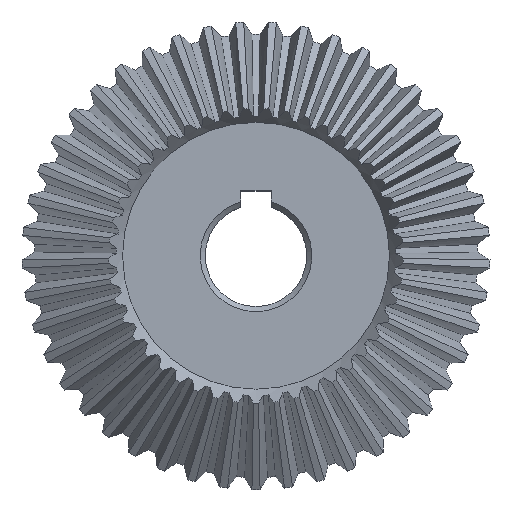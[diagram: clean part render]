
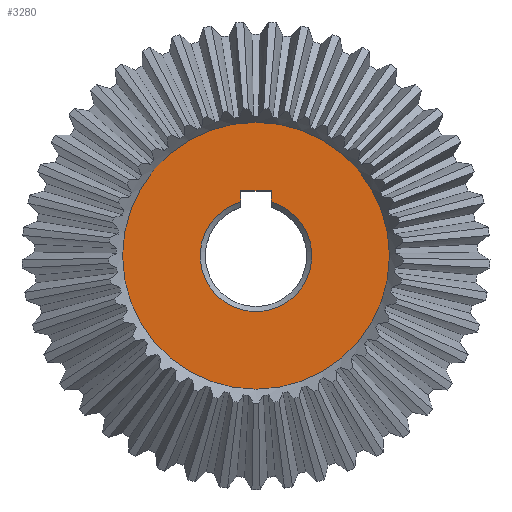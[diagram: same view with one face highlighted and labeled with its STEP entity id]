
A CAD part, top view. The second image highlights one B-rep face of the part: STEP entity #3280.
In plain terms, the highlighted planar face has unit normal (0, 0, 1).
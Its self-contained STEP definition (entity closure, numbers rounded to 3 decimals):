
#472=FACE_BOUND('',#681,.T.);
#476=PLANE('',#3504);
#486=FACE_OUTER_BOUND('',#680,.T.);
#680=EDGE_LOOP('',(#2068));
#681=EDGE_LOOP('',(#2069,#2070,#2071,#2072));
#875=LINE('',#4431,#889);
#877=LINE('',#4445,#891);
#878=LINE('',#4446,#892);
#889=VECTOR('',#3815,10.);
#891=VECTOR('',#3827,10.);
#892=VECTOR('',#3828,10.);
#903=CIRCLE('',#3502,11.);
#905=CIRCLE('',#3505,26.296);
#1100=VERTEX_POINT('',#4426);
#1101=VERTEX_POINT('',#4430);
#1103=VERTEX_POINT('',#4435);
#1104=VERTEX_POINT('',#4442);
#1105=VERTEX_POINT('',#4444);
#1484=EDGE_CURVE('',#1101,#1100,#875,.T.);
#1487=EDGE_CURVE('',#1103,#1100,#903,.T.);
#1489=EDGE_CURVE('',#1104,#1104,#905,.T.);
#1490=EDGE_CURVE('',#1103,#1105,#877,.T.);
#1491=EDGE_CURVE('',#1105,#1101,#878,.T.);
#2068=ORIENTED_EDGE('',*,*,#1489,.T.);
#2069=ORIENTED_EDGE('',*,*,#1487,.F.);
#2070=ORIENTED_EDGE('',*,*,#1490,.T.);
#2071=ORIENTED_EDGE('',*,*,#1491,.T.);
#2072=ORIENTED_EDGE('',*,*,#1484,.T.);
#3280=ADVANCED_FACE('',(#486,#472),#476,.F.);
#3502=AXIS2_PLACEMENT_3D('',#4439,#3819,#3820);
#3504=AXIS2_PLACEMENT_3D('',#4441,#3823,#3824);
#3505=AXIS2_PLACEMENT_3D('',#4443,#3825,#3826);
#3815=DIRECTION('',(0.,-1.,0.));
#3819=DIRECTION('center_axis',(0.,0.,1.));
#3820=DIRECTION('ref_axis',(1.,0.,0.));
#3823=DIRECTION('center_axis',(0.,0.,-1.));
#3824=DIRECTION('ref_axis',(-1.,0.,0.));
#3825=DIRECTION('center_axis',(0.,0.,1.));
#3826=DIRECTION('ref_axis',(1.,0.,0.));
#3827=DIRECTION('',(0.,1.,0.));
#3828=DIRECTION('',(1.,0.,0.));
#4426=CARTESIAN_POINT('',(3.,10.583,-22.));
#4430=CARTESIAN_POINT('',(3.,12.8,-22.));
#4431=CARTESIAN_POINT('',(3.,-6.748,-22.));
#4435=CARTESIAN_POINT('',(-3.,10.583,-22.));
#4439=CARTESIAN_POINT('Origin',(0.,0.,-22.));
#4441=CARTESIAN_POINT('Origin',(0.,-26.296,-22.));
#4442=CARTESIAN_POINT('',(0.,-26.296,-22.));
#4443=CARTESIAN_POINT('Origin',(0.,0.,-22.));
#4444=CARTESIAN_POINT('',(-3.,12.8,-22.));
#4445=CARTESIAN_POINT('',(-3.,-8.378,-22.));
#4446=CARTESIAN_POINT('',(-1.5,12.8,-22.));
